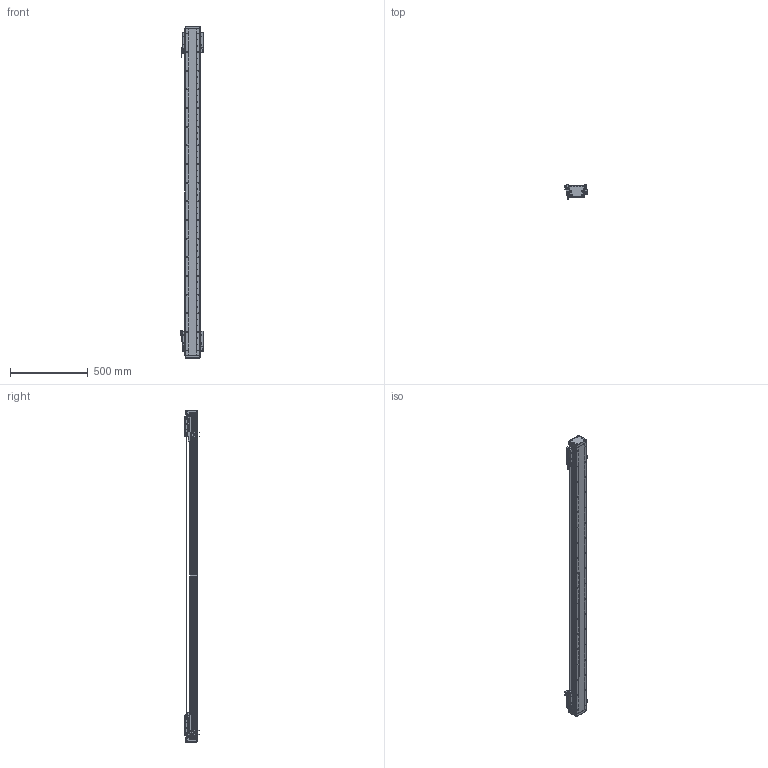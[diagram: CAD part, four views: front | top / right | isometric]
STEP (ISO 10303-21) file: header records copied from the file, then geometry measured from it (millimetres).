
FILE_DESCRIPTION (( 'STEP AP203' ), '1' );
FILE_NAME ('DA-B95-2-B15-T1760-C010-0.2 直线电机.STEP', '2023-05-06T06:33:39', ( '微软用户' ), ( '微软中国' ), 'SwSTEP 2.0', 'SolidWorks 2019', '' );
FILE_SCHEMA (( 'CONFIG_CONTROL_DESIGN' ));
Length unit declared in the file: millimetre
Products named in the file (34): IU-BU95-L-00 菁釱_L2100; 复件 DA95-MFP-01 密封片^66245-BU95-V 滚珠滑台; 复件 复件 18252-0001-003-00 钢带拉块^DA-A95-B15-T-C010-0.2-N 直线电机; IU-BU95-L 菁釱絳寢; DA-A95-GYP-00 光电感应片^DA-A95-B15-T-C010-0.2-N 直线电机; PM-T45 光电开关^DA-A95-B15-T-C010-0.2-N 直线电机; 葩璃 DA95-B15-DP--B-00 菜えB^66245-BU95-V 幗紩賑怢; 葩璃 DA95-B15-DP-A-00 菜えA^66245-BU95-V 幗紩賑怢; B15 XD-U-02L ｴﾅﾕ､ｳﾟ^DA-A95-B15-T-C010-0.2-N ﾖｱﾏﾟｵ扈銈XD-U-02L; 复件 DA95-DB-00  挡板^66245-BU95-V 滚珠滑台; 复件 六角薄螺母 M3^DA-A95-B15-T-C010-0.2-N 直线电机_GB_FASTENER_NUT_STNAB M3-C; 复件 纯铜油杯 6x6mm^66245-BU95-V 滚珠滑台; 复件 复件 18252-0001-004-00 钢带端盖^DA-A95-B15-T-C010-0.2-N 直线电机; LMDK-2-R001-V5-L02-C1-F00，0.2M 读数头^DA-A95-B15-T-C010-0.2-N 直线电机_DMA-010-0.2; 66245-BU95-V-00 珨极趙賑雄怢啣; 复件 复件 18252-0001-002-00 钢带垫块^DA-A95-B15-T-C010-0.2-N 直线电机; 复件 DKW-HXJ-JY-00 缓冲橡胶^DA-A95-B15-T-C010-0.2-N 直线电机; 复件 DA95-B15 钢带盖板^DA-A95-B15-T-C010-0.2-N 直线电机; 66245-BU95-V 幗紩賑怢; 葩璃 DA95-GT-T-00^IU-BU95-L 菁釱絳寢_DA95; 葩璃 BKMA01-W060-TRL^DA-A95-B15-T-C010-0.2-N 眻盄萇儂; DA-B95-2-B15-T1760-C010-0.2 眻盄萇儂; 复件 DA95-HK-GT-00 滑块钢轨^66245-BU95-V-00 一体化滑动台板; 葩璃 BKM015-W060-C1-TP-DA-0.2^DA-A95-B15-T-C010-0.2-N 眻盄萇儂; 复件 DA95-DK-00 挡块^66245-BU95-V 滚珠滑台; 复件 66245-BU95-HT-V-01 滑动台板^66245-BU95-V-00 一体化滑动台板; 葩璃 PM-Y45^DA-A95-B15-T-C010-0.2-N 眻盄萇儂; 复件 DKW-GYP-ZJ-00 中间光电感应片^DA-A95-B15-T-C010-0.2-N 直线电机; 复件 DKW-KGZ-ZJ-00 中间光电开关支架^DA-A95-B15-T-C010-0.2-N 直线电机; 复件 DA95-B15-YB-B-00 压板B^66245-BU95-V 滚珠滑台; 复件 DA95-B15-YB-A-00 压板A^66245-BU95-V 滚珠滑台; DA95-HXJ-00 缓冲橡胶^DA-A95-B15-T-C010-0.2-N 直线电机
Assembly tree (80 placements, depth 4):
  DA-B95-2-B15-T1760-C010-0.2 眻盄萇儂
    IU-BU95-L 菁釱絳寢
      IU-BU95-L-00 菁釱_L2100
      葩璃 DA95-GT-T-00^IU-BU95-L 菁釱絳寢_DA95  x2
    66245-BU95-V 幗紩賑怢
      66245-BU95-V-00 珨极趙賑雄怢啣
        复件 66245-BU95-HT-V-01 滑动台板^66245-BU95-V-00 一体化滑动台板
        复件 DA95-HK-GT-00 滑块钢轨^66245-BU95-V-00 一体化滑动台板  x2
      葩璃 DA95-B15-DP-A-00 菜えA^66245-BU95-V 幗紩賑怢
      复件 DA95-B15-YB-A-00 压板A^66245-BU95-V 滚珠滑台
      复件 DA95-B15-YB-B-00 压板B^66245-BU95-V 滚珠滑台
      复件 DA95-DB-00  挡板^66245-BU95-V 滚珠滑台  x4
      复件 DA95-DK-00 挡块^66245-BU95-V 滚珠滑台  x2
      复件 DA95-MFP-01 密封片^66245-BU95-V 滚珠滑台  x4
      复件 纯铜油杯 6x6mm^66245-BU95-V 滚珠滑台  x2
      葩璃 DA95-B15-DP--B-00 菜えB^66245-BU95-V 幗紩賑怢
    66245-BU95-V 幗紩賑怢
      66245-BU95-V-00 珨极趙賑雄怢啣
        复件 66245-BU95-HT-V-01 滑动台板^66245-BU95-V-00 一体化滑动台板
        复件 DA95-HK-GT-00 滑块钢轨^66245-BU95-V-00 一体化滑动台板  x2
      葩璃 DA95-B15-DP-A-00 菜えA^66245-BU95-V 幗紩賑怢
      复件 DA95-B15-YB-A-00 压板A^66245-BU95-V 滚珠滑台
      复件 DA95-B15-YB-B-00 压板B^66245-BU95-V 滚珠滑台
      复件 DA95-DB-00  挡板^66245-BU95-V 滚珠滑台  x4
      复件 DA95-DK-00 挡块^66245-BU95-V 滚珠滑台  x2
      复件 DA95-MFP-01 密封片^66245-BU95-V 滚珠滑台  x4
      复件 纯铜油杯 6x6mm^66245-BU95-V 滚珠滑台  x2
      葩璃 DA95-B15-DP--B-00 菜えB^66245-BU95-V 幗紩賑怢
    DA-A95-GYP-00 光电感应片^DA-A95-B15-T-C010-0.2-N 直线电机  x2
    LMDK-2-R001-V5-L02-C1-F00，0.2M 读数头^DA-A95-B15-T-C010-0.2-N 直线电机_DMA-010-0.2  x2
    复件 DKW-KGZ-ZJ-00 中间光电开关支架^DA-A95-B15-T-C010-0.2-N 直线电机
    葩璃 PM-Y45^DA-A95-B15-T-C010-0.2-N 眻盄萇儂
    复件 DKW-GYP-ZJ-00 中间光电感应片^DA-A95-B15-T-C010-0.2-N 直线电机
    葩璃 BKM015-W060-C1-TP-DA-0.2^DA-A95-B15-T-C010-0.2-N 眻盄萇儂  x2
    复件 DKW-HXJ-JY-00 缓冲橡胶^DA-A95-B15-T-C010-0.2-N 直线电机  x2
    PM-T45 光电开关^DA-A95-B15-T-C010-0.2-N 直线电机  x4
    B15 XD-U-02L ｴﾅﾕ､ｳﾟ^DA-A95-B15-T-C010-0.2-N ﾖｱﾏﾟｵ扈銈XD-U-02L
    复件 复件 18252-0001-003-00 钢带拉块^DA-A95-B15-T-C010-0.2-N 直线电机  x2
    复件 复件 18252-0001-002-00 钢带垫块^DA-A95-B15-T-C010-0.2-N 直线电机  x2
    复件 复件 18252-0001-004-00 钢带端盖^DA-A95-B15-T-C010-0.2-N 直线电机  x2
    复件 DA95-B15 钢带盖板^DA-A95-B15-T-C010-0.2-N 直线电机
    DA95-HXJ-00 缓冲橡胶^DA-A95-B15-T-C010-0.2-N 直线电机  x4
    葩璃 BKMA01-W060-TRL^DA-A95-B15-T-C010-0.2-N 眻盄萇儂
    复件 六角薄螺母 M3^DA-A95-B15-T-C010-0.2-N 直线电机_GB_FASTENER_NUT_STNAB M3-C  x6
Bounding box: 145.4 x 90.2 x 2136 mm (x, y, z)
Volume: 7142994.4 mm3; surface area: 2348013.2 mm2
Topology: 75 solids, 93 shells, 4028 faces, 11188 edges, 7071 vertices
Faces by surface type: cylinder 2021, plane 1475, cone 464, torus 64, sphere 4
Entity records: 93022 total; most frequent: CARTESIAN_POINT 23624, ORIENTED_EDGE 13734, DIRECTION 13450, EDGE_CURVE 6867, AXIS2_PLACEMENT_3D 5097, VERTEX_POINT 4473, VECTOR 3256, LINE 3256
